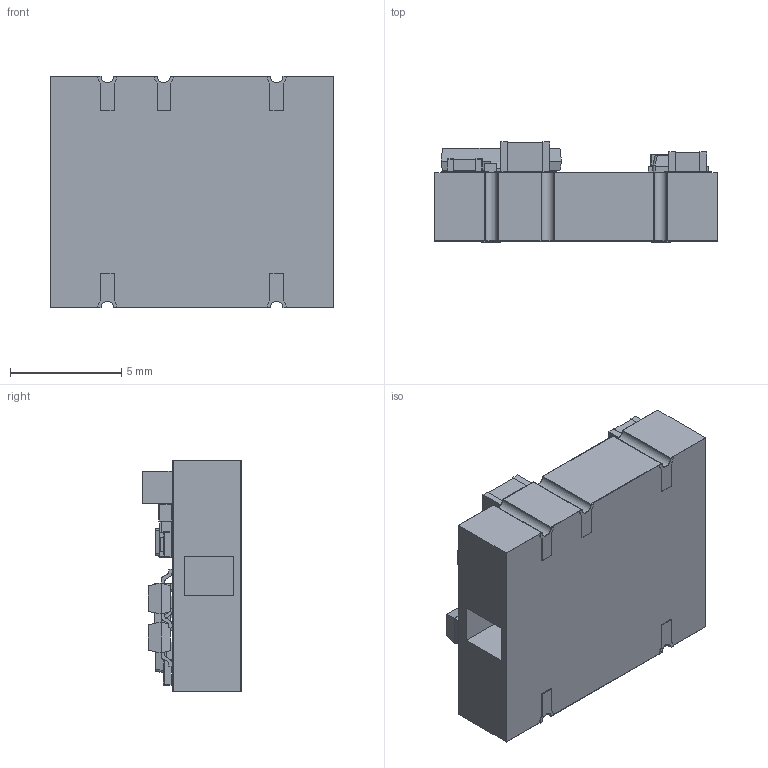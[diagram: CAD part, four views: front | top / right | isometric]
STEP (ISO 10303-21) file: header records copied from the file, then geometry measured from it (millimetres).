
FILE_DESCRIPTION (( 'STEP AP214' ), '1' );
FILE_NAME ('NXE1SXXXXMC.STEP', '2015-03-11T18:09:17', ( '' ), ( '' ), 'SwSTEP 2.0', 'SolidWorks 2014', '' );
FILE_SCHEMA (( 'AUTOMOTIVE_DESIGN' ));
Length unit declared in the file: millimetre
Products named in the file (14): UND_1210CC_CAPC1608X90N; UND_1210CC_CAPC1005X55N; UND_1210CC_CAPC2012X135N; UND_0603CC___ _________; UND_0603CR#2_Predeterminado; UND_SOT23___; UND_0402CR_Predeterminado; 4020PA001NXE03; NXE1SXXXXMC; NXE1S0505MC; MPS LOGO 2MM; UND_DFN2X2A; UND_SOD-723; UND_MICROSMP
Assembly tree (17 placements, depth 2):
  NXE1SXXXXMC
    4020PA001NXE03
    UND_0402CR_Predeterminado  x3
    UND_SOT23___  x2
    UND_0603CR#2_Predeterminado
    UND_0603CC___ _________
    UND_1210CC_CAPC2012X135N
    UND_1210CC_CAPC1005X55N
    UND_1210CC_CAPC1608X90N
    UND_MICROSMP  x2
    UND_SOD-723
    UND_DFN2X2A
    MPS LOGO 2MM
    NXE1S0505MC
Bounding box: 12.7 x 4.49 x 10.41 mm (x, y, z)
Volume: 414.9 mm3; surface area: 1199.1 mm2
Topology: 105 solids, 105 shells, 1461 faces, 3659 edges, 2406 vertices
Faces by surface type: plane 1149, cylinder 219, bspline 80, sphere 12, torus 1
Full cylindrical faces by diameter (mm): 0.25 x1
Entity records: 49748 total; most frequent: CARTESIAN_POINT 10282, ORIENTED_EDGE 6462, DIRECTION 5957, EDGE_CURVE 3231, VECTOR 2655, LINE 2655, VERTEX_POINT 2136, AXIS2_PLACEMENT_3D 1651
